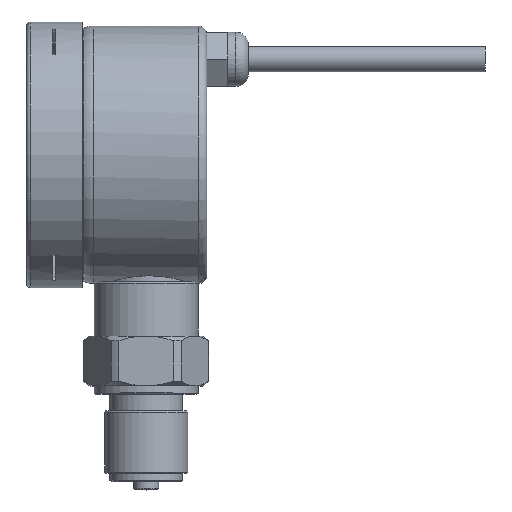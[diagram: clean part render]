
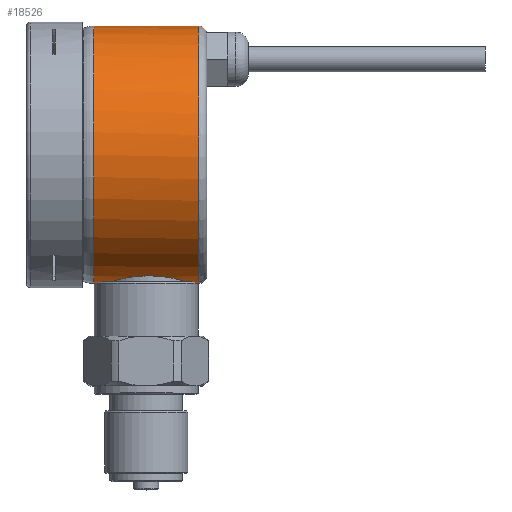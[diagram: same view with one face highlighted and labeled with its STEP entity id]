
A CAD part, top view. The second image highlights one B-rep face of the part: STEP entity #18526.
In plain terms, the highlighted cylindrical face has radius 30.95 mm (diameter 61.9 mm), a full revolution.
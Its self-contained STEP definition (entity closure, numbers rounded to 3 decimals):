
#17467=CYLINDRICAL_SURFACE('',#37907,30.95);
#17601=B_SPLINE_CURVE_WITH_KNOTS('',3,(#45295,#45296,#45297,#45298,#45299,
#45300,#45301,#45302,#45303,#45304,#45305,#45306,#45307,#45308,#45309,#45310,
#45311,#45312),.UNSPECIFIED.,.T.,.F.,(2,2,2,2,2,2,2,2,2,2,2),(-0.125,0.,
0.125,0.25,0.375,0.5,0.625,0.75,0.875,1.,1.125),.UNSPECIFIED.);
#18526=ADVANCED_FACE('',(#20115,#20116,#20117),#17467,.T.);
#20115=FACE_BOUND('',#20446,.T.);
#20116=FACE_BOUND('',#20447,.T.);
#20117=FACE_BOUND('',#20448,.T.);
#20446=EDGE_LOOP('',(#22244));
#20447=EDGE_LOOP('',(#22245));
#20448=EDGE_LOOP('',(#22246));
#22244=ORIENTED_EDGE('',*,*,#33366,.T.);
#22245=ORIENTED_EDGE('',*,*,#33364,.T.);
#22246=ORIENTED_EDGE('',*,*,#33351,.F.);
#30560=VERTEX_POINT('',#45313);
#30573=VERTEX_POINT('',#45349);
#30574=VERTEX_POINT('',#45353);
#33351=EDGE_CURVE('',#30560,#30560,#17601,.T.);
#33364=EDGE_CURVE('',#30573,#30573,#37527,.T.);
#33366=EDGE_CURVE('',#30574,#30574,#37529,.T.);
#37527=CIRCLE('',#37903,30.95);
#37529=CIRCLE('',#37906,30.95);
#37903=AXIS2_PLACEMENT_3D('',#45348,#39426,#39427);
#37906=AXIS2_PLACEMENT_3D('',#45352,#39432,#39433);
#37907=AXIS2_PLACEMENT_3D('',#45354,#39434,#39435);
#39426=DIRECTION('',(-1.,0.,0.));
#39427=DIRECTION('',(0.,0.,-1.));
#39432=DIRECTION('',(1.,0.,0.));
#39433=DIRECTION('',(0.,0.,-1.));
#39434=DIRECTION('',(1.,0.,0.));
#39435=DIRECTION('',(0.,0.,1.));
#45295=CARTESIAN_POINT('',(8.795,-37.983,72.4));
#45296=CARTESIAN_POINT('',(3.202,-37.983,72.4));
#45297=CARTESIAN_POINT('',(0.496,-38.44,71.246));
#45298=CARTESIAN_POINT('',(-3.346,-39.389,67.405));
#45299=CARTESIAN_POINT('',(-4.499,-39.817,64.674));
#45300=CARTESIAN_POINT('',(-4.505,-39.82,59.15));
#45301=CARTESIAN_POINT('',(-3.36,-39.393,56.411));
#45302=CARTESIAN_POINT('',(0.502,-38.438,52.546));
#45303=CARTESIAN_POINT('',(3.2,-37.983,51.401));
#45304=CARTESIAN_POINT('',(8.793,-37.983,51.399));
#45305=CARTESIAN_POINT('',(11.499,-38.44,52.553));
#45306=CARTESIAN_POINT('',(15.342,-39.389,56.394));
#45307=CARTESIAN_POINT('',(16.495,-39.817,59.125));
#45308=CARTESIAN_POINT('',(16.501,-39.82,64.65));
#45309=CARTESIAN_POINT('',(15.356,-39.393,67.39));
#45310=CARTESIAN_POINT('',(11.493,-38.438,71.255));
#45311=CARTESIAN_POINT('',(8.795,-37.983,72.4));
#45312=CARTESIAN_POINT('',(3.202,-37.983,72.4));
#45313=CARTESIAN_POINT('',(5.998,-37.983,72.4));
#45348=CARTESIAN_POINT('',(17.998,-8.869,61.9));
#45349=CARTESIAN_POINT('',(17.998,-8.869,30.95));
#45352=CARTESIAN_POINT('',(-7.202,-8.869,61.9));
#45353=CARTESIAN_POINT('',(-7.202,-8.869,30.95));
#45354=CARTESIAN_POINT('',(19.998,-8.869,61.9));
